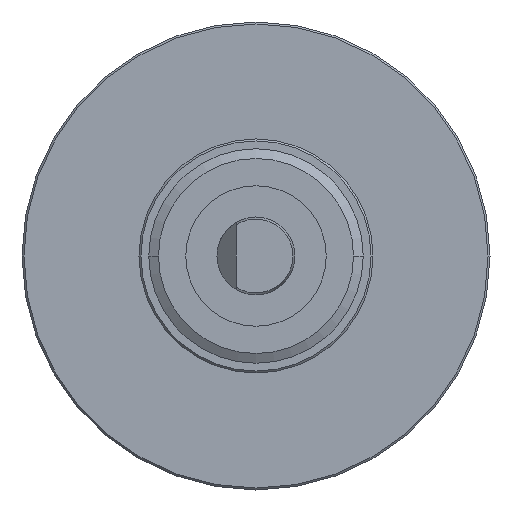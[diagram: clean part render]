
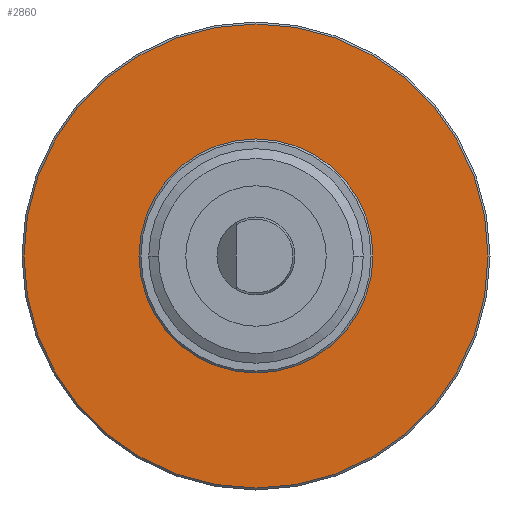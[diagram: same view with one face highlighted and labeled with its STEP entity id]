
A CAD part, left-side view. The second image highlights one B-rep face of the part: STEP entity #2860.
In plain terms, the highlighted planar face has unit normal (-1, 0, 0).
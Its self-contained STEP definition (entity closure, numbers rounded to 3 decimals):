
#1129=CARTESIAN_POINT('',(-1.3,0.,0.));
#1130=DIRECTION('',(-1.,0.,0.));
#1131=DIRECTION('',(0.,1.,0.));
#1132=AXIS2_PLACEMENT_3D('',#1129,#1130,#1131);
#1137=CARTESIAN_POINT('',(-1.3,0.,0.));
#1138=DIRECTION('',(-1.,0.,0.));
#1139=DIRECTION('',(0.,-1.,0.));
#1140=AXIS2_PLACEMENT_3D('',#1137,#1138,#1139);
#1190=CARTESIAN_POINT('',(-1.3,0.,0.));
#1191=DIRECTION('',(-1.,0.,0.));
#1192=DIRECTION('',(0.,1.,0.));
#1193=AXIS2_PLACEMENT_3D('',#1190,#1191,#1192);
#1259=CARTESIAN_POINT('',(-1.3,0.,0.));
#1260=DIRECTION('',(1.,0.,0.));
#1261=DIRECTION('',(0.,1.,0.));
#1262=AXIS2_PLACEMENT_3D('',#1259,#1260,#1261);
#1679=CARTESIAN_POINT('',(-1.3,3.,0.));
#1680=CARTESIAN_POINT('',(-1.3,-3.,0.));
#1681=VERTEX_POINT('',#1679);
#1682=VERTEX_POINT('',#1680);
#1715=CARTESIAN_POINT('',(-1.3,5.95,0.));
#1716=CARTESIAN_POINT('',(-1.3,-5.95,0.));
#1717=VERTEX_POINT('',#1715);
#1718=VERTEX_POINT('',#1716);
#2844=CARTESIAN_POINT('',(-1.3,0.,0.));
#2845=DIRECTION('',(-1.,0.,0.));
#2846=DIRECTION('',(0.,1.,0.));
#2847=AXIS2_PLACEMENT_3D('',#2844,#2845,#2846);
#2848=PLANE('',#2847);
#2849=ORIENTED_EDGE('',*,*,#2834,.F.);
#2851=ORIENTED_EDGE('',*,*,#2850,.F.);
#2852=EDGE_LOOP('',(#2849,#2851));
#2853=FACE_OUTER_BOUND('',#2852,.F.);
#2855=ORIENTED_EDGE('',*,*,#2854,.T.);
#2857=ORIENTED_EDGE('',*,*,#2856,.F.);
#2858=EDGE_LOOP('',(#2855,#2857));
#2859=FACE_BOUND('',#2858,.F.);
#2860=ADVANCED_FACE('',(#2853,#2859),#2848,.T.);
#1133=CIRCLE('',#1132,5.95);
#1141=CIRCLE('',#1140,5.95);
#1194=CIRCLE('',#1193,3.);
#1263=CIRCLE('',#1262,3.);
#2834=EDGE_CURVE('',#1717,#1718,#1133,.T.);
#2850=EDGE_CURVE('',#1718,#1717,#1141,.T.);
#2854=EDGE_CURVE('',#1681,#1682,#1194,.T.);
#2856=EDGE_CURVE('',#1681,#1682,#1263,.T.);
